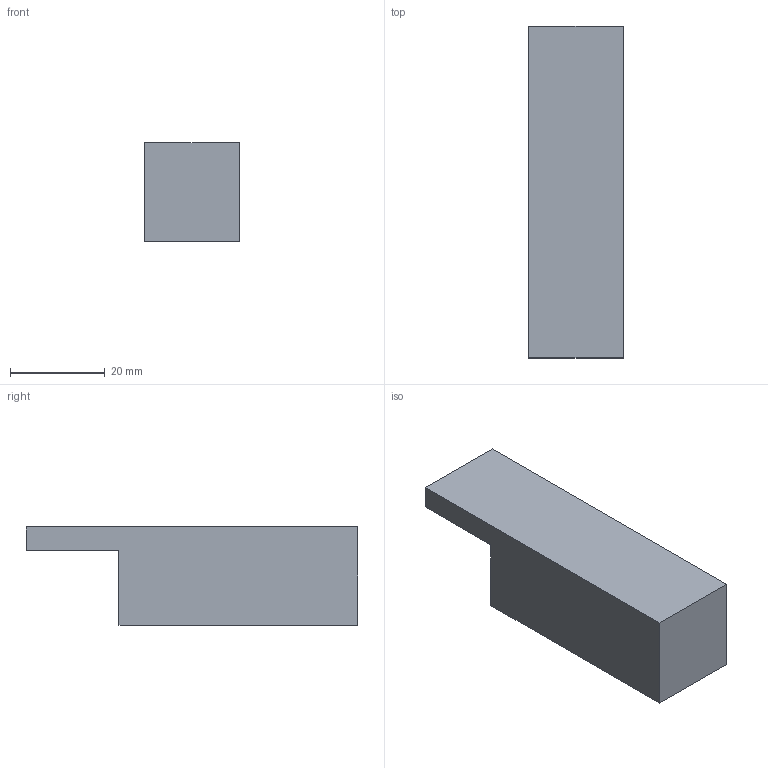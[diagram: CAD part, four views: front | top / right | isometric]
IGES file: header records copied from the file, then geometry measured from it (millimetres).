
Start section: SolidWorks IGES file using analytic representation for surfaces
Global section: file name: G:\Projects\New project\For Marketing\IGS\DXF & IGS\2290121.IGS; native system: SolidWorks 2010; preprocessor: SolidWorks 2010; author: weijuan; date: 151007.161828; units: inch
Bounding box: 20 x 70 x 20.7 mm (x, y, z)
Surface area: 8206.4 mm2 (no closed solid volume)
Topology: 0 solids, 0 shells, 62 faces, 354 edges, 354 vertices
Faces by surface type: bspline 40, revolution 22
